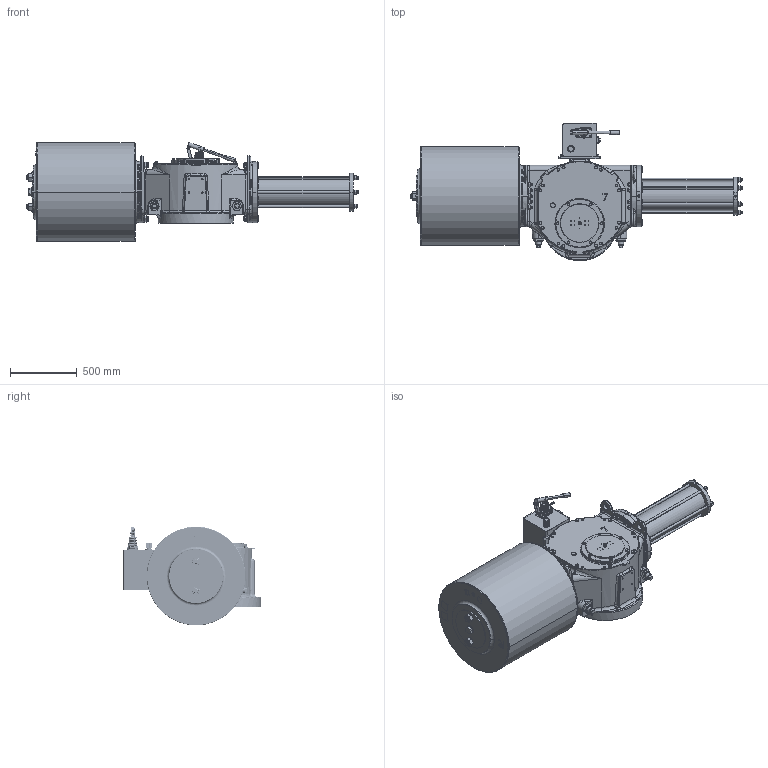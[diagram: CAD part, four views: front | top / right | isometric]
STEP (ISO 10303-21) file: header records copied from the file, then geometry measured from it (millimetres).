
FILE_DESCRIPTION (( 'STEP AP203' ), '1' );
FILE_NAME ('VTS7-700-MH.STEP', '2023-01-01T10:17:52', ( '' ), ( '' ), 'SwSTEP 2.0', 'SolidWorks 2020', '' );
FILE_SCHEMA (( 'CONFIG_CONTROL_DESIGN' ));
Length unit declared in the file: millimetre
Products named in the file (1): VTS7-700-MH
Bounding box: 2483 x 1027 x 740.27 mm (x, y, z)
Volume: 548224974.9 mm3; surface area: 8198330.5 mm2
Topology: 13 solids, 19 shells, 4064 faces, 10087 edges, 6194 vertices
Faces by surface type: plane 1449, cylinder 1372, cone 865, bspline 342, torus 36
Entity records: 148058 total; most frequent: CARTESIAN_POINT 53795, DIRECTION 19863, ORIENTED_EDGE 19802, EDGE_CURVE 9901, AXIS2_PLACEMENT_3D 7952, VERTEX_POINT 6194, EDGE_LOOP 4505, CIRCLE 4229
